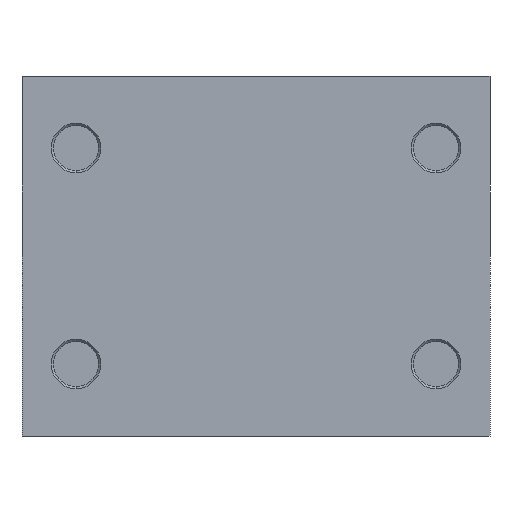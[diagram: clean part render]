
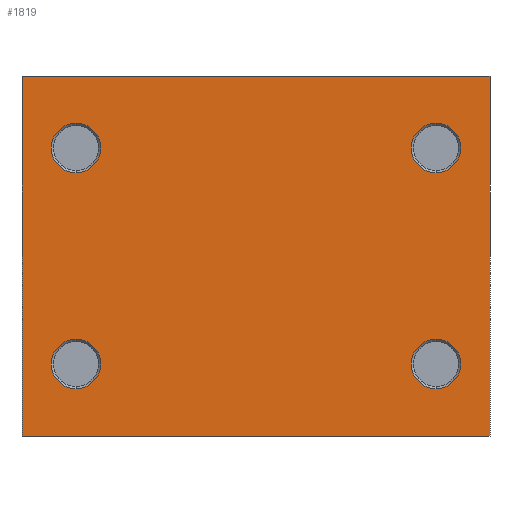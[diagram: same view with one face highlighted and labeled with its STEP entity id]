
A CAD part, front view. The second image highlights one B-rep face of the part: STEP entity #1819.
In plain terms, the highlighted planar face has unit normal (0, -1, 0).
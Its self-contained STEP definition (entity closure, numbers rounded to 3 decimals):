
#3 = VERTEX_POINT ( 'NONE', #1274 ) ;
#10 = ORIENTED_EDGE ( 'NONE', *, *, #170, .T. ) ;
#12 = EDGE_CURVE ( 'NONE', #573, #570, #947, .T. ) ;
#21 = AXIS2_PLACEMENT_3D ( 'NONE', #1550, #917, #1072 ) ;
#58 = DIRECTION ( 'NONE',  ( 1., 0., 0. ) ) ;
#89 = AXIS2_PLACEMENT_3D ( 'NONE', #926, #445, #1380 ) ;
#99 = EDGE_CURVE ( 'NONE', #1569, #1658, #1837, .T. ) ;
#134 = ORIENTED_EDGE ( 'NONE', *, *, #885, .T. ) ;
#141 = FACE_OUTER_BOUND ( 'NONE', #1577, .T. ) ;
#170 = EDGE_CURVE ( 'NONE', #1017, #570, #1631, .T. ) ;
#171 = VERTEX_POINT ( 'NONE', #1335 ) ;
#216 = DIRECTION ( 'NONE',  ( 1., 0., 0. ) ) ;
#225 = DIRECTION ( 'NONE',  ( 0., 1., 0. ) ) ;
#233 = VERTEX_POINT ( 'NONE', #1963 ) ;
#252 = CIRCLE ( 'NONE', #89, 2.75 ) ;
#256 = CARTESIAN_POINT ( 'NONE',  ( 20., -20., 12. ) ) ;
#262 = CARTESIAN_POINT ( 'NONE',  ( -26., -20., -20. ) ) ;
#263 = EDGE_CURVE ( 'NONE', #171, #573, #749, .T. ) ;
#303 = PLANE ( 'NONE',  #1965 ) ;
#330 = AXIS2_PLACEMENT_3D ( 'NONE', #256, #225, #1352 ) ;
#347 = DIRECTION ( 'NONE',  ( 1., 0., 0. ) ) ;
#374 = CARTESIAN_POINT ( 'NONE',  ( -20., -20., 12. ) ) ;
#378 = DIRECTION ( 'NONE',  ( 0., 1., 0. ) ) ;
#379 = DIRECTION ( 'NONE',  ( 0., 1., 0. ) ) ;
#391 = ORIENTED_EDGE ( 'NONE', *, *, #1073, .T. ) ;
#431 = CARTESIAN_POINT ( 'NONE',  ( 26., -20., -20. ) ) ;
#445 = DIRECTION ( 'NONE',  ( 0., 1., 0. ) ) ;
#452 = VERTEX_POINT ( 'NONE', #587 ) ;
#469 = CARTESIAN_POINT ( 'NONE',  ( -26., -20., 20. ) ) ;
#478 = CIRCLE ( 'NONE', #1814, 2.75 ) ;
#500 = EDGE_CURVE ( 'NONE', #1508, #880, #478, .T. ) ;
#506 = CIRCLE ( 'NONE', #896, 2.75 ) ;
#547 = CARTESIAN_POINT ( 'NONE',  ( 20., -20., -9.25 ) ) ;
#570 = VERTEX_POINT ( 'NONE', #1590 ) ;
#572 = DIRECTION ( 'NONE',  ( 0., 0., 1. ) ) ;
#573 = VERTEX_POINT ( 'NONE', #1284 ) ;
#587 = CARTESIAN_POINT ( 'NONE',  ( 20., -20., 14.75 ) ) ;
#615 = EDGE_CURVE ( 'NONE', #1658, #1569, #1731, .T. ) ;
#671 = AXIS2_PLACEMENT_3D ( 'NONE', #1604, #1472, #1925 ) ;
#746 = ORIENTED_EDGE ( 'NONE', *, *, #263, .F. ) ;
#749 = LINE ( 'NONE', #262, #1938 ) ;
#758 = DIRECTION ( 'NONE',  ( 1., 0., 0. ) ) ;
#772 = CARTESIAN_POINT ( 'NONE',  ( -26., -20., -20. ) ) ;
#791 = AXIS2_PLACEMENT_3D ( 'NONE', #374, #828, #1149 ) ;
#801 = EDGE_CURVE ( 'NONE', #171, #1017, #1924, .T. ) ;
#802 = CIRCLE ( 'NONE', #671, 2.75 ) ;
#804 = CARTESIAN_POINT ( 'NONE',  ( 20., -20., 9.25 ) ) ;
#828 = DIRECTION ( 'NONE',  ( 0., 1., 0. ) ) ;
#836 = AXIS2_PLACEMENT_3D ( 'NONE', #1594, #379, #347 ) ;
#880 = VERTEX_POINT ( 'NONE', #547 ) ;
#885 = EDGE_CURVE ( 'NONE', #452, #1235, #1009, .T. ) ;
#889 = VECTOR ( 'NONE', #1186, 1000. ) ;
#896 = AXIS2_PLACEMENT_3D ( 'NONE', #990, #378, #216 ) ;
#917 = DIRECTION ( 'NONE',  ( 0., 1., 0. ) ) ;
#926 = CARTESIAN_POINT ( 'NONE',  ( 20., -20., 12. ) ) ;
#937 = ORIENTED_EDGE ( 'NONE', *, *, #1345, .T. ) ;
#941 = ORIENTED_EDGE ( 'NONE', *, *, #1708, .T. ) ;
#947 = LINE ( 'NONE', #469, #1389 ) ;
#990 = CARTESIAN_POINT ( 'NONE',  ( 20., -20., -12. ) ) ;
#1001 = CARTESIAN_POINT ( 'NONE',  ( 26., -20., -20. ) ) ;
#1009 = CIRCLE ( 'NONE', #330, 2.75 ) ;
#1017 = VERTEX_POINT ( 'NONE', #431 ) ;
#1023 = CARTESIAN_POINT ( 'NONE',  ( 20., -20., -14.75 ) ) ;
#1062 = ORIENTED_EDGE ( 'NONE', *, *, #12, .F. ) ;
#1064 = EDGE_LOOP ( 'NONE', ( #1662, #1559 ) ) ;
#1072 = DIRECTION ( 'NONE',  ( 1., 0., 0. ) ) ;
#1073 = EDGE_CURVE ( 'NONE', #1235, #452, #252, .T. ) ;
#1079 = DIRECTION ( 'NONE',  ( 1., 0., 0. ) ) ;
#1149 = DIRECTION ( 'NONE',  ( 1., 0., 0. ) ) ;
#1185 = ORIENTED_EDGE ( 'NONE', *, *, #1492, .T. ) ;
#1186 = DIRECTION ( 'NONE',  ( 0., 0., 1. ) ) ;
#1214 = EDGE_LOOP ( 'NONE', ( #937, #1185 ) ) ;
#1235 = VERTEX_POINT ( 'NONE', #804 ) ;
#1236 = FACE_BOUND ( 'NONE', #1064, .T. ) ;
#1274 = CARTESIAN_POINT ( 'NONE',  ( -20., -20., -9.25 ) ) ;
#1284 = CARTESIAN_POINT ( 'NONE',  ( -26., -20., 20. ) ) ;
#1296 = DIRECTION ( 'NONE',  ( 0., 1., 0. ) ) ;
#1335 = CARTESIAN_POINT ( 'NONE',  ( -26., -20., -20. ) ) ;
#1345 = EDGE_CURVE ( 'NONE', #233, #3, #802, .T. ) ;
#1352 = DIRECTION ( 'NONE',  ( 1., 0., 0. ) ) ;
#1362 = CARTESIAN_POINT ( 'NONE',  ( -20., -20., 14.75 ) ) ;
#1380 = DIRECTION ( 'NONE',  ( 1., 0., 0. ) ) ;
#1389 = VECTOR ( 'NONE', #1079, 1000. ) ;
#1393 = DIRECTION ( 'NONE',  ( 0., -1., 0. ) ) ;
#1420 = VECTOR ( 'NONE', #58, 1000. ) ;
#1462 = CARTESIAN_POINT ( 'NONE',  ( -26., -20., -20. ) ) ;
#1472 = DIRECTION ( 'NONE',  ( 0., 1., 0. ) ) ;
#1492 = EDGE_CURVE ( 'NONE', #3, #233, #2004, .T. ) ;
#1508 = VERTEX_POINT ( 'NONE', #1023 ) ;
#1550 = CARTESIAN_POINT ( 'NONE',  ( -20., -20., -12. ) ) ;
#1553 = FACE_BOUND ( 'NONE', #2020, .T. ) ;
#1559 = ORIENTED_EDGE ( 'NONE', *, *, #99, .T. ) ;
#1569 = VERTEX_POINT ( 'NONE', #1362 ) ;
#1577 = EDGE_LOOP ( 'NONE', ( #10, #1062, #746, #1898 ) ) ;
#1582 = FACE_BOUND ( 'NONE', #1888, .T. ) ;
#1590 = CARTESIAN_POINT ( 'NONE',  ( 26., -20., 20. ) ) ;
#1594 = CARTESIAN_POINT ( 'NONE',  ( -20., -20., 12. ) ) ;
#1599 = DIRECTION ( 'NONE',  ( 1., 0., 0. ) ) ;
#1604 = CARTESIAN_POINT ( 'NONE',  ( -20., -20., -12. ) ) ;
#1631 = LINE ( 'NONE', #1001, #889 ) ;
#1658 = VERTEX_POINT ( 'NONE', #1730 ) ;
#1662 = ORIENTED_EDGE ( 'NONE', *, *, #615, .T. ) ;
#1708 = EDGE_CURVE ( 'NONE', #880, #1508, #506, .T. ) ;
#1728 = CARTESIAN_POINT ( 'NONE',  ( 20., -20., -12. ) ) ;
#1730 = CARTESIAN_POINT ( 'NONE',  ( -20., -20., 9.25 ) ) ;
#1731 = CIRCLE ( 'NONE', #836, 2.75 ) ;
#1814 = AXIS2_PLACEMENT_3D ( 'NONE', #1728, #1296, #1599 ) ;
#1819 = ADVANCED_FACE ( 'NONE', ( #1851, #141, #1582, #1553, #1236 ), #303, .T. ) ;
#1824 = ORIENTED_EDGE ( 'NONE', *, *, #500, .T. ) ;
#1837 = CIRCLE ( 'NONE', #791, 2.75 ) ;
#1851 = FACE_BOUND ( 'NONE', #1214, .T. ) ;
#1888 = EDGE_LOOP ( 'NONE', ( #1824, #941 ) ) ;
#1898 = ORIENTED_EDGE ( 'NONE', *, *, #801, .T. ) ;
#1924 = LINE ( 'NONE', #1462, #1420 ) ;
#1925 = DIRECTION ( 'NONE',  ( 1., 0., 0. ) ) ;
#1938 = VECTOR ( 'NONE', #572, 1000. ) ;
#1963 = CARTESIAN_POINT ( 'NONE',  ( -20., -20., -14.75 ) ) ;
#1965 = AXIS2_PLACEMENT_3D ( 'NONE', #772, #1393, #758 ) ;
#2004 = CIRCLE ( 'NONE', #21, 2.75 ) ;
#2020 = EDGE_LOOP ( 'NONE', ( #391, #134 ) ) ;
